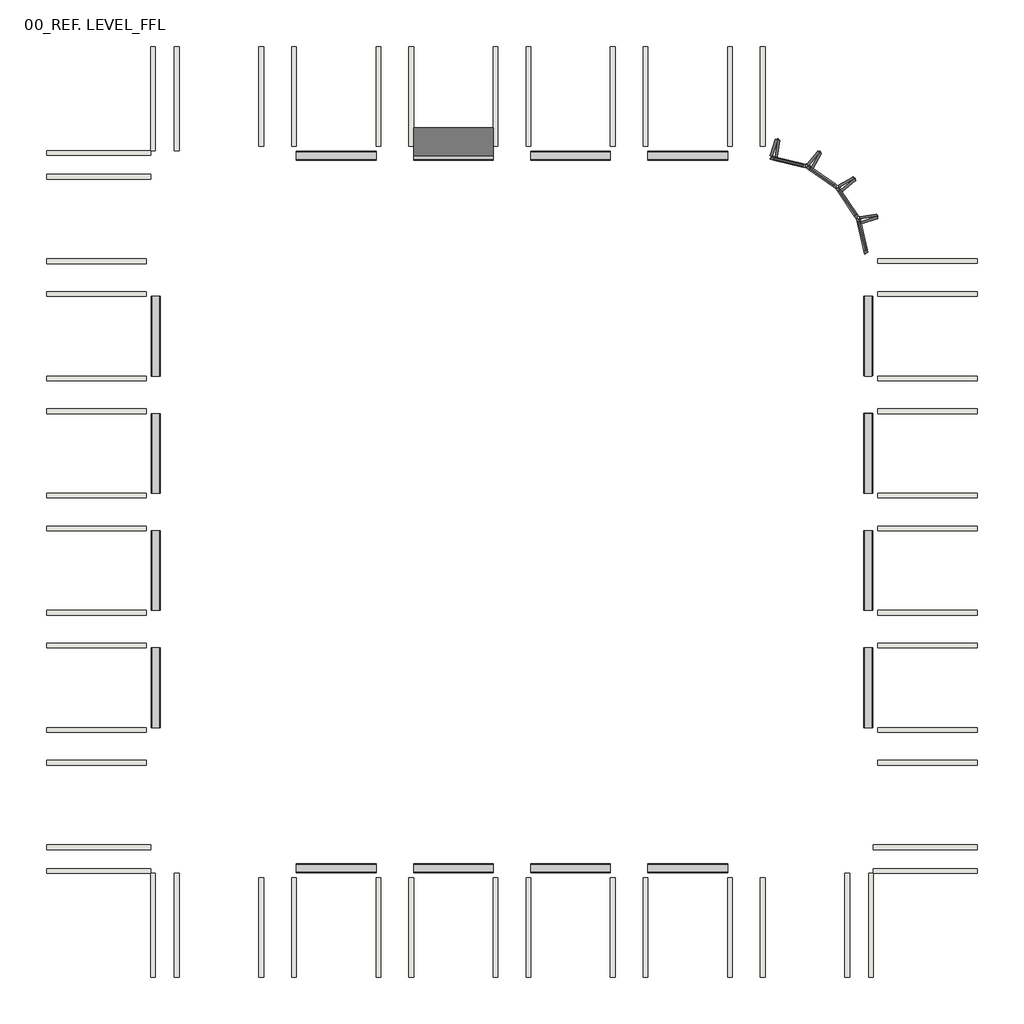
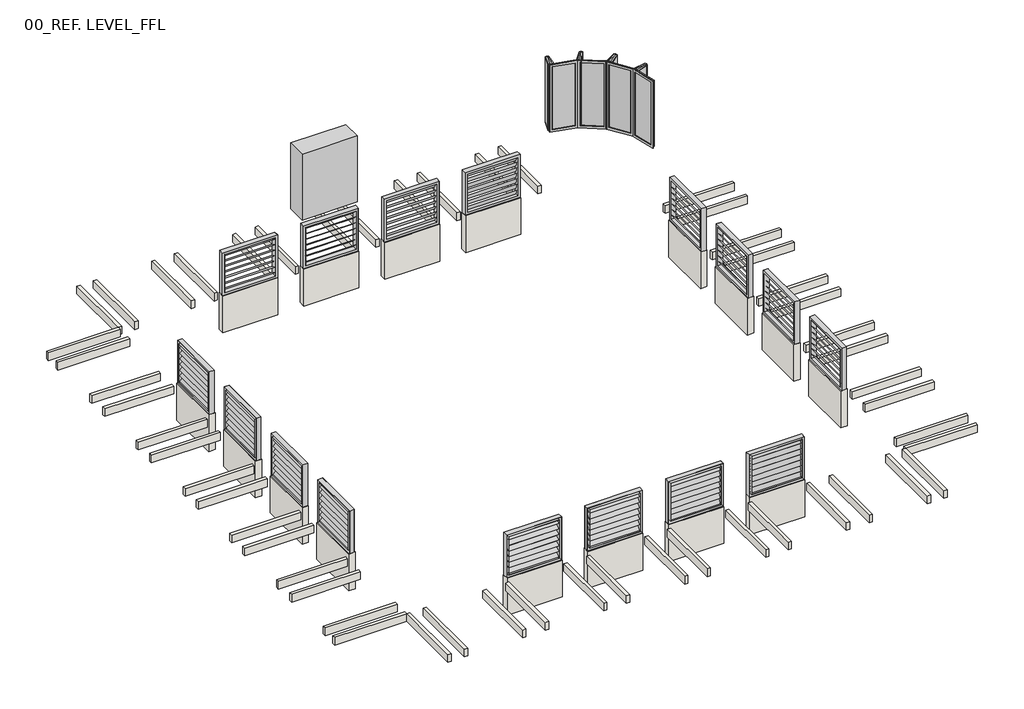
# One storey: 68 walls, 20 plates, 1 proxy.
"""IFC4 building model written with IfcOpenShell, lengths in millimetres."""

from ifc_helpers import new_model, si_unit, frame, origin, place, context, project, spatial, polyline, outline, extrude, transform, mapped, element, save
from components import louvre_assembly_louvre_assembly_33a35c59, louvre_assembly_louvre_assembly_0d6be10c, louvre_assembly_louvre_assembly_2a96ff12, louvre_assembly_louvre_assembly_c81225b3, louvre_assembly_louvre_assembly_8d303e35, louvre_assembly_louvre_assembly_0edd0d44, louvre_assembly_louvre_assembly_c5f2a191, louvre_assembly_louvre_assembly_078862d1, vert_blinds_d016024f, vert_blinds_629a2b83, vert_blinds_3b0b8ee7, vert_blinds_9a5ecf0d

model = new_model("IFC4")

# Units and contexts
model_context = context("Model", 3, world=origin())
ifc_project = project(units=[si_unit("LENGTHUNIT", "METRE", prefix="MILLI")], contexts=[model_context])

# Site, building, storey
site = spatial("IfcSite", under=ifc_project)
building = spatial("IfcBuilding", under=site)
storey = spatial("IfcBuildingStorey", under=building, Name="00_REF. LEVEL_FFL", Elevation=5000.0)

# Proxy
placement = place(None, origin())
element("IfcBuildingElementProxy", 1, Name="Mass 4 : Mass 4", ObjectType="Mass 4 : Mass 4", at=placement, inside=storey, context=model_context, shape_type="SweptSolid", body=[
    extrude(outline(polyline([(-3823.5775323, -1104.430099), (-5523.5775323, -1104.430099), (-5523.5775323, -504.430099), (-3823.5775323, -504.430099), (-3823.5775323, -1104.430099)])), frame((0.0, 0.0, 5855.5555556), z_axis=(0.0, 0.0, 1.0), x_axis=(1.0, 0.0, 0.0)), (0.0, 0.0, 1.0), 2155.5555556),
])

# Plates
louvre_assembly_louvre_assembly_shape = louvre_assembly_louvre_assembly_33a35c59(model_context)
element("IfcPlate", 2, ObjectType="LOUVRE_ASSEMBLY : LOUVRE_ASSEMBLY", at=placement, inside=storey, context=model_context, shape_type="MappedRepresentation", body=[
    mapped(louvre_assembly_louvre_assembly_shape, transform((-7173.5775323, -1104.430099, 4305.0), x_axis=(1.0, 0.0, 0.0), y_axis=(0.0, 1.0, 0.0), z_axis=(0.0, 0.0, 1.0))),
])
louvre_assembly_louvre_assembly_2_shape = louvre_assembly_louvre_assembly_0d6be10c(model_context)
element("IfcPlate", 3, ObjectType="LOUVRE_ASSEMBLY : LOUVRE_ASSEMBLY", at=placement, inside=storey, context=model_context, shape_type="MappedRepresentation", body=[
    mapped(louvre_assembly_louvre_assembly_2_shape, transform((-4673.5775323, -1104.430099, 4305.0), x_axis=(1.0, 0.0, 0.0), y_axis=(0.0, 1.0, 0.0), z_axis=(0.0, 0.0, 1.0))),
])
element("IfcPlate", 4, ObjectType="LOUVRE_ASSEMBLY : LOUVRE_ASSEMBLY", at=placement, inside=storey, context=model_context, shape_type="MappedRepresentation", body=[
    mapped(louvre_assembly_louvre_assembly_2_shape, transform((4176.4224677, -4954.430099, 4305.0), x_axis=(0.0, -1.0, 0.0), y_axis=(1.0, 0.0, 0.0), z_axis=(0.0, 0.0, 1.0))),
])
element("IfcPlate", 5, ObjectType="LOUVRE_ASSEMBLY : LOUVRE_ASSEMBLY", at=placement, inside=storey, context=model_context, shape_type="MappedRepresentation", body=[
    mapped(louvre_assembly_louvre_assembly_2_shape, transform((4176.4224677, -7454.430099, 4305.0), x_axis=(0.0, -1.0, 0.0), y_axis=(1.0, 0.0, 0.0), z_axis=(0.0, 0.0, 1.0))),
])
element("IfcPlate", 6, ObjectType="LOUVRE_ASSEMBLY : LOUVRE_ASSEMBLY", at=placement, inside=storey, context=model_context, shape_type="MappedRepresentation", body=[
    mapped(louvre_assembly_louvre_assembly_2_shape, transform((4176.4224677, -9954.430099, 4305.0), x_axis=(0.0, -1.0, 0.0), y_axis=(1.0, 0.0, 0.0), z_axis=(0.0, 0.0, 1.0))),
])
element("IfcPlate", 7, ObjectType="LOUVRE_ASSEMBLY : LOUVRE_ASSEMBLY", at=placement, inside=storey, context=model_context, shape_type="MappedRepresentation", body=[
    mapped(louvre_assembly_louvre_assembly_2_shape, transform((4176.4224677, -12454.430099, 4305.0), x_axis=(0.0, -1.0, 0.0), y_axis=(1.0, 0.0, 0.0), z_axis=(0.0, 0.0, 1.0))),
])
louvre_assembly_louvre_assembly_3_shape = louvre_assembly_louvre_assembly_2a96ff12(model_context)
element("IfcPlate", 8, ObjectType="LOUVRE_ASSEMBLY : LOUVRE_ASSEMBLY", at=placement, inside=storey, context=model_context, shape_type="MappedRepresentation", body=[
    mapped(louvre_assembly_louvre_assembly_3_shape, transform((-2173.5775323, -1104.430099, 4305.0), x_axis=(1.0, 0.0, 0.0), y_axis=(0.0, 1.0, 0.0), z_axis=(0.0, 0.0, 1.0))),
])
louvre_assembly_louvre_assembly_4_shape = louvre_assembly_louvre_assembly_c81225b3(model_context)
element("IfcPlate", 9, ObjectType="LOUVRE_ASSEMBLY : LOUVRE_ASSEMBLY", at=placement, inside=storey, context=model_context, shape_type="MappedRepresentation", body=[
    mapped(louvre_assembly_louvre_assembly_4_shape, transform((-11023.5775323, -4954.430099, 4305.0), x_axis=(0.0, -1.0, 0.0), y_axis=(1.0, 0.0, 0.0), z_axis=(0.0, 0.0, 1.0))),
])
element("IfcPlate", 10, ObjectType="LOUVRE_ASSEMBLY : LOUVRE_ASSEMBLY", at=placement, inside=storey, context=model_context, shape_type="MappedRepresentation", body=[
    mapped(louvre_assembly_louvre_assembly_4_shape, transform((-11023.5775323, -7454.430099, 4305.0), x_axis=(0.0, -1.0, 0.0), y_axis=(1.0, 0.0, 0.0), z_axis=(0.0, 0.0, 1.0))),
])
element("IfcPlate", 11, ObjectType="LOUVRE_ASSEMBLY : LOUVRE_ASSEMBLY", at=placement, inside=storey, context=model_context, shape_type="MappedRepresentation", body=[
    mapped(louvre_assembly_louvre_assembly_4_shape, transform((-11023.5775323, -9954.430099, 4305.0), x_axis=(0.0, -1.0, 0.0), y_axis=(1.0, 0.0, 0.0), z_axis=(0.0, 0.0, 1.0))),
])
element("IfcPlate", 12, ObjectType="LOUVRE_ASSEMBLY : LOUVRE_ASSEMBLY", at=placement, inside=storey, context=model_context, shape_type="MappedRepresentation", body=[
    mapped(louvre_assembly_louvre_assembly_4_shape, transform((-11023.5775323, -12454.430099, 4305.0), x_axis=(0.0, -1.0, 0.0), y_axis=(1.0, 0.0, 0.0), z_axis=(0.0, 0.0, 1.0))),
])
element("IfcPlate", 13, ObjectType="LOUVRE_ASSEMBLY : LOUVRE_ASSEMBLY", at=placement, inside=storey, context=model_context, shape_type="MappedRepresentation", body=[
    mapped(louvre_assembly_louvre_assembly_4_shape, transform((-4673.5775323, -16304.430099, 4305.0), x_axis=(1.0, 0.0, 0.0), y_axis=(0.0, 1.0, 0.0), z_axis=(0.0, 0.0, 1.0))),
])
louvre_assembly_louvre_assembly_5_shape = louvre_assembly_louvre_assembly_8d303e35(model_context)
element("IfcPlate", 14, ObjectType="LOUVRE_ASSEMBLY : LOUVRE_ASSEMBLY", at=placement, inside=storey, context=model_context, shape_type="MappedRepresentation", body=[
    mapped(louvre_assembly_louvre_assembly_5_shape, transform((326.4224677, -1104.430099, 4305.0), x_axis=(1.0, 0.0, 0.0), y_axis=(0.0, 1.0, 0.0), z_axis=(0.0, 0.0, 1.0))),
])
louvre_assembly_louvre_assembly_6_shape = louvre_assembly_louvre_assembly_0edd0d44(model_context)
element("IfcPlate", 15, ObjectType="LOUVRE_ASSEMBLY : LOUVRE_ASSEMBLY", at=placement, inside=storey, context=model_context, shape_type="MappedRepresentation", body=[
    mapped(louvre_assembly_louvre_assembly_6_shape, transform((-7173.5775323, -16304.430099, 4305.0), x_axis=(1.0, 0.0, 0.0), y_axis=(0.0, 1.0, 0.0), z_axis=(0.0, 0.0, 1.0))),
])
louvre_assembly_louvre_assembly_7_shape = louvre_assembly_louvre_assembly_c5f2a191(model_context)
element("IfcPlate", 16, ObjectType="LOUVRE_ASSEMBLY : LOUVRE_ASSEMBLY", at=placement, inside=storey, context=model_context, shape_type="MappedRepresentation", body=[
    mapped(louvre_assembly_louvre_assembly_7_shape, transform((-2173.5775323, -16304.430099, 4305.0), x_axis=(1.0, 0.0, 0.0), y_axis=(0.0, 1.0, 0.0), z_axis=(0.0, 0.0, 1.0))),
])
louvre_assembly_louvre_assembly_8_shape = louvre_assembly_louvre_assembly_078862d1(model_context)
element("IfcPlate", 17, ObjectType="LOUVRE_ASSEMBLY : LOUVRE_ASSEMBLY", at=placement, inside=storey, context=model_context, shape_type="MappedRepresentation", body=[
    mapped(louvre_assembly_louvre_assembly_8_shape, transform((326.4224677, -16304.430099, 4305.0), x_axis=(1.0, 0.0, 0.0), y_axis=(0.0, 1.0, 0.0), z_axis=(0.0, 0.0, 1.0))),
])
vert_blinds_shape = vert_blinds_d016024f(model_context)
element("IfcPlate", 18, ObjectType="CURTAIN PANEL VODA STYLE BIFOLDING : VERT_BLINDS", at=placement, inside=storey, context=model_context, shape_type="MappedRepresentation", body=[
    mapped(vert_blinds_shape, transform((2471.578616, -1249.5796599, 6100.0), x_axis=(0.9721730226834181, -0.2342639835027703, 0.0), y_axis=(0.2342639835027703, 0.9721730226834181, 0.0), z_axis=(0.0, 0.0, 1.0))),
])
vert_blinds_2_shape = vert_blinds_629a2b83(model_context)
element("IfcPlate", 19, ObjectType="CURTAIN PANEL VODA STYLE BIFOLDING : VERT_BLINDS", at=placement, inside=storey, context=model_context, shape_type="MappedRepresentation", body=[
    mapped(vert_blinds_2_shape, transform((3177.0285393, -1564.5411613, 6100.0), x_axis=(0.8230618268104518, -0.5679517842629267, 0.0), y_axis=(0.5679517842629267, 0.8230618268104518, 0.0), z_axis=(0.0, 0.0, 1.0))),
])
vert_blinds_3_shape = vert_blinds_3b0b8ee7(model_context)
element("IfcPlate", 20, ObjectType="CURTAIN PANEL VODA STYLE BIFOLDING : VERT_BLINDS", at=placement, inside=storey, context=model_context, shape_type="MappedRepresentation", body=[
    mapped(vert_blinds_3_shape, transform((3722.3912272, -2113.5896916, 6100.0), x_axis=(0.5634683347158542, -0.8261376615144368, 0.0), y_axis=(0.8261376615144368, 0.5634683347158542, 0.0), z_axis=(0.0, 0.0, 1.0))),
])
vert_blinds_4_shape = vert_blinds_9a5ecf0d(model_context)
element("IfcPlate", 21, ObjectType="CURTAIN PANEL VODA STYLE BIFOLDING : VERT_BLINDS", at=placement, inside=storey, context=model_context, shape_type="MappedRepresentation", body=[
    mapped(vert_blinds_4_shape, transform((4034.3748546, -2819.1956788, 6100.0), x_axis=(0.229492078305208, -0.9733105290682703, 0.0), y_axis=(0.9733105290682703, 0.229492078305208, 0.0), z_axis=(0.0, 0.0, 1.0))),
])

# Walls
element("IfcWall", 22, ObjectType="Generic - 100mm", at=placement, inside=storey, context=model_context, shape_type="SweptSolid", body=[
    extrude(outline(polyline([(-6223.5775323, 1224.3248489), (-6223.5775323, -904.430099), (-6323.5775323, -904.430099), (-6323.5775323, 1224.3248489), (-6223.5775323, 1224.3248489)])), frame((0.0, 0.0, 4000.0), z_axis=(0.0, 0.0, 1.0), x_axis=(1.0, 0.0, 0.0)), (0.0, 0.0, 1.0), 250.0),
])
element("IfcWall", 23, ObjectType="Generic - 100mm", at=placement, inside=storey, context=model_context, shape_type="SweptSolid", body=[
    extrude(outline(polyline([(-5523.5775323, 1224.3248489), (-5523.5775323, -904.430099), (-5623.5775323, -904.430099), (-5623.5775323, 1224.3248489), (-5523.5775323, 1224.3248489)])), frame((0.0, 0.0, 4000.0), z_axis=(0.0, 0.0, 1.0), x_axis=(1.0, 0.0, 0.0)), (0.0, 0.0, 1.0), 250.0),
])
element("IfcWall", 24, ObjectType="Generic - 100mm", at=placement, inside=storey, context=model_context, shape_type="SweptSolid", body=[
    extrude(outline(polyline([(-3723.5775323, 1224.3248489), (-3723.5775323, -904.430099), (-3823.5775323, -904.430099), (-3823.5775323, 1224.3248489), (-3723.5775323, 1224.3248489)])), frame((0.0, 0.0, 4000.0), z_axis=(0.0, 0.0, 1.0), x_axis=(1.0, 0.0, 0.0)), (0.0, 0.0, 1.0), 250.0),
])
element("IfcWall", 25, ObjectType="Generic - 100mm", at=placement, inside=storey, context=model_context, shape_type="SweptSolid", body=[
    extrude(outline(polyline([(-3023.5775323, 1224.3248489), (-3023.5775323, -904.430099), (-3123.5775323, -904.430099), (-3123.5775323, 1224.3248489), (-3023.5775323, 1224.3248489)])), frame((0.0, 0.0, 4000.0), z_axis=(0.0, 0.0, 1.0), x_axis=(1.0, 0.0, 0.0)), (0.0, 0.0, 1.0), 250.0),
])
element("IfcWall", 26, ObjectType="Generic - 100mm", at=placement, inside=storey, context=model_context, shape_type="SweptSolid", body=[
    extrude(outline(polyline([(-1223.5775323, 1224.3248489), (-1223.5775323, -904.430099), (-1323.5775323, -904.430099), (-1323.5775323, 1224.3248489), (-1223.5775323, 1224.3248489)])), frame((0.0, 0.0, 4000.0), z_axis=(0.0, 0.0, 1.0), x_axis=(1.0, 0.0, 0.0)), (0.0, 0.0, 1.0), 250.0),
])
element("IfcWall", 27, ObjectType="Generic - 100mm", at=placement, inside=storey, context=model_context, shape_type="SweptSolid", body=[
    extrude(outline(polyline([(-523.5775323, 1224.3248489), (-523.5775323, -904.430099), (-623.5775323, -904.430099), (-623.5775323, 1224.3248489), (-523.5775323, 1224.3248489)])), frame((0.0, 0.0, 4000.0), z_axis=(0.0, 0.0, 1.0), x_axis=(1.0, 0.0, 0.0)), (0.0, 0.0, 1.0), 250.0),
])
element("IfcWall", 28, ObjectType="Generic - 100mm", at=placement, inside=storey, context=model_context, shape_type="SweptSolid", body=[
    extrude(outline(polyline([(1276.4224677, 1224.3248489), (1276.4224677, -904.430099), (1176.4224677, -904.430099), (1176.4224677, 1224.3248489), (1276.4224677, 1224.3248489)])), frame((0.0, 0.0, 4000.0), z_axis=(0.0, 0.0, 1.0), x_axis=(1.0, 0.0, 0.0)), (0.0, 0.0, 1.0), 250.0),
])
element("IfcWall", 29, ObjectType="Generic - 100mm", at=placement, inside=storey, context=model_context, shape_type="SweptSolid", body=[
    extrude(outline(polyline([(1976.4224677, 1224.3248489), (1976.4224677, -904.430099), (1876.4224677, -904.430099), (1876.4224677, 1224.3248489), (1976.4224677, 1224.3248489)])), frame((0.0, 0.0, 4000.0), z_axis=(0.0, 0.0, 1.0), x_axis=(1.0, 0.0, 0.0)), (0.0, 0.0, 1.0), 250.0),
])
element("IfcWall", 30, ObjectType="Generic - 100mm", at=placement, inside=storey, context=model_context, shape_type="SweptSolid", body=[
    extrude(outline(polyline([(-8023.5775323, 1224.3248489), (-8023.5775323, -904.430099), (-8123.5775323, -904.430099), (-8123.5775323, 1224.3248489), (-8023.5775323, 1224.3248489)])), frame((0.0, 0.0, 4000.0), z_axis=(0.0, 0.0, 1.0), x_axis=(1.0, 0.0, 0.0)), (0.0, 0.0, 1.0), 250.0),
])
element("IfcWall", 31, ObjectType="Generic - 100mm", at=placement, inside=storey, context=model_context, shape_type="SweptSolid", body=[
    extrude(outline(polyline([(-8723.5775323, 1224.3248489), (-8723.5775323, -904.430099), (-8823.5775323, -904.430099), (-8823.5775323, 1224.3248489), (-8723.5775323, 1224.3248489)])), frame((0.0, 0.0, 4000.0), z_axis=(0.0, 0.0, 1.0), x_axis=(1.0, 0.0, 0.0)), (0.0, 0.0, 1.0), 250.0),
])
element("IfcWall", 32, ObjectType="Generic - 100mm", at=placement, inside=storey, context=model_context, shape_type="SweptSolid", body=[
    extrude(outline(polyline([(-13350.1421366, -3304.430099), (-11223.5775323, -3304.430099), (-11223.5775323, -3404.430099), (-13350.1421366, -3404.430099), (-13350.1421366, -3304.430099)])), frame((0.0, 0.0, 4000.0), z_axis=(0.0, 0.0, 1.0), x_axis=(1.0, 0.0, 0.0)), (0.0, 0.0, 1.0), 250.0),
])
element("IfcWall", 33, ObjectType="Generic - 100mm", at=placement, inside=storey, context=model_context, shape_type="SweptSolid", body=[
    extrude(outline(polyline([(-13352.3324802, -4004.430099), (-11223.5775323, -4004.430099), (-11223.5775323, -4104.430099), (-13352.3324802, -4104.430099), (-13352.3324802, -4004.430099)])), frame((0.0, 0.0, 4000.0), z_axis=(0.0, 0.0, 1.0), x_axis=(1.0, 0.0, 0.0)), (0.0, 0.0, 1.0), 250.0),
])
element("IfcWall", 34, ObjectType="Generic - 100mm", at=placement, inside=storey, context=model_context, shape_type="SweptSolid", body=[
    extrude(outline(polyline([(-13352.3324802, -5804.430099), (-11223.5775323, -5804.430099), (-11223.5775323, -5904.430099), (-13352.3324802, -5904.430099), (-13352.3324802, -5804.430099)])), frame((0.0, 0.0, 4000.0), z_axis=(0.0, 0.0, 1.0), x_axis=(1.0, 0.0, 0.0)), (0.0, 0.0, 1.0), 250.0),
])
element("IfcWall", 35, ObjectType="Generic - 100mm", at=placement, inside=storey, context=model_context, shape_type="SweptSolid", body=[
    extrude(outline(polyline([(-13352.3324802, -6504.430099), (-11223.5775323, -6504.430099), (-11223.5775323, -6604.430099), (-13352.3324802, -6604.430099), (-13352.3324802, -6504.430099)])), frame((0.0, 0.0, 4000.0), z_axis=(0.0, 0.0, 1.0), x_axis=(1.0, 0.0, 0.0)), (0.0, 0.0, 1.0), 250.0),
])
element("IfcWall", 36, ObjectType="Generic - 100mm", at=placement, inside=storey, context=model_context, shape_type="SweptSolid", body=[
    extrude(outline(polyline([(-13352.3324802, -8304.430099), (-11223.5775323, -8304.430099), (-11223.5775323, -8404.430099), (-13352.3324802, -8404.430099), (-13352.3324802, -8304.430099)])), frame((0.0, 0.0, 4000.0), z_axis=(0.0, 0.0, 1.0), x_axis=(1.0, 0.0, 0.0)), (0.0, 0.0, 1.0), 250.0),
])
element("IfcWall", 37, ObjectType="Generic - 100mm", at=placement, inside=storey, context=model_context, shape_type="SweptSolid", body=[
    extrude(outline(polyline([(-11033.5775323, 1224.3248489), (-11033.5775323, -994.430099), (-11133.5775323, -994.430099), (-11133.5775323, 1224.3248489), (-11033.5775323, 1224.3248489)])), frame((0.0, 0.0, 4000.0), z_axis=(0.0, 0.0, 1.0), x_axis=(1.0, 0.0, 0.0)), (0.0, 0.0, 1.0), 250.0),
])
element("IfcWall", 38, ObjectType="Generic - 100mm", at=placement, inside=storey, context=model_context, shape_type="SweptSolid", body=[
    extrude(outline(polyline([(-13352.3324802, -994.430099), (-11133.5775323, -994.430099), (-11133.5775323, -1094.430099), (-13352.3324802, -1094.430099), (-13352.3324802, -994.430099)])), frame((0.0, 0.0, 4000.0), z_axis=(0.0, 0.0, 1.0), x_axis=(1.0, 0.0, 0.0)), (0.0, 0.0, 1.0), 250.0),
])
element("IfcWall", 39, ObjectType="Generic - 100mm", at=placement, inside=storey, context=model_context, shape_type="SweptSolid", body=[
    extrude(outline(polyline([(-10523.5775323, 1224.3248489), (-10523.5775323, -994.430099), (-10623.5775323, -994.430099), (-10623.5775323, 1224.3248489), (-10523.5775323, 1224.3248489)])), frame((0.0, 0.0, 4000.0), z_axis=(0.0, 0.0, 1.0), x_axis=(1.0, 0.0, 0.0)), (0.0, 0.0, 1.0), 250.0),
])
element("IfcWall", 40, ObjectType="Generic - 100mm", at=placement, inside=storey, context=model_context, shape_type="SweptSolid", body=[
    extrude(outline(polyline([(-13350.1421366, -1502.2397554), (-11133.5775323, -1502.2397554), (-11133.5775323, -1602.2397554), (-13350.1421366, -1602.2397554), (-13350.1421366, -1502.2397554)])), frame((0.0, 0.0, 4000.0), z_axis=(0.0, 0.0, 1.0), x_axis=(1.0, 0.0, 0.0)), (0.0, 0.0, 1.0), 250.0),
])
element("IfcWall", 41, ObjectType="Generic - 100mm", at=placement, inside=storey, context=model_context, shape_type="SweptSolid", body=[
    extrude(outline(polyline([(-13352.3324802, -9004.430099), (-11223.5775323, -9004.430099), (-11223.5775323, -9104.430099), (-13352.3324802, -9104.430099), (-13352.3324802, -9004.430099)])), frame((0.0, 0.0, 4000.0), z_axis=(0.0, 0.0, 1.0), x_axis=(1.0, 0.0, 0.0)), (0.0, 0.0, 1.0), 250.0),
])
element("IfcWall", 42, ObjectType="Generic - 100mm", at=placement, inside=storey, context=model_context, shape_type="SweptSolid", body=[
    extrude(outline(polyline([(-13352.3324802, -10804.430099), (-11221.3871887, -10804.430099), (-11221.3871887, -10904.430099), (-13352.3324802, -10904.430099), (-13352.3324802, -10804.430099)])), frame((0.0, 0.0, 4000.0), z_axis=(0.0, 0.0, 1.0), x_axis=(1.0, 0.0, 0.0)), (0.0, 0.0, 1.0), 250.0),
])
element("IfcWall", 43, ObjectType="Generic - 100mm", at=placement, inside=storey, context=model_context, shape_type="SweptSolid", body=[
    extrude(outline(polyline([(6502.987072, -3402.2397554), (4374.232124, -3402.2397554), (4374.232124, -3302.2397554), (6502.987072, -3302.2397554), (6502.987072, -3402.2397554)])), frame((0.0, 0.0, 4000.0), z_axis=(0.0, 0.0, 1.0), x_axis=(1.0, 0.0, 0.0)), (0.0, 0.0, 1.0), 250.0),
])
element("IfcWall", 44, ObjectType="Generic - 100mm", at=placement, inside=storey, context=model_context, shape_type="SweptSolid", body=[
    extrude(outline(polyline([(6505.1774156, -4104.430099), (4374.232124, -4104.430099), (4374.232124, -4004.430099), (6505.1774156, -4004.430099), (6505.1774156, -4104.430099)])), frame((0.0, 0.0, 4000.0), z_axis=(0.0, 0.0, 1.0), x_axis=(1.0, 0.0, 0.0)), (0.0, 0.0, 1.0), 250.0),
])
element("IfcWall", 45, ObjectType="Generic - 100mm", at=placement, inside=storey, context=model_context, shape_type="SweptSolid", body=[
    extrude(outline(polyline([(6505.1774156, -5904.430099), (4374.232124, -5904.430099), (4374.232124, -5804.430099), (6505.1774156, -5804.430099), (6505.1774156, -5904.430099)])), frame((0.0, 0.0, 4000.0), z_axis=(0.0, 0.0, 1.0), x_axis=(1.0, 0.0, 0.0)), (0.0, 0.0, 1.0), 250.0),
])
element("IfcWall", 46, ObjectType="Generic - 100mm", at=placement, inside=storey, context=model_context, shape_type="SweptSolid", body=[
    extrude(outline(polyline([(6505.1774156, -6604.430099), (4374.232124, -6604.430099), (4374.232124, -6504.430099), (6505.1774156, -6504.430099), (6505.1774156, -6604.430099)])), frame((0.0, 0.0, 4000.0), z_axis=(0.0, 0.0, 1.0), x_axis=(1.0, 0.0, 0.0)), (0.0, 0.0, 1.0), 250.0),
])
element("IfcWall", 47, ObjectType="Generic - 100mm", at=placement, inside=storey, context=model_context, shape_type="SweptSolid", body=[
    extrude(outline(polyline([(6505.1774156, -8404.430099), (4374.232124, -8404.430099), (4374.232124, -8304.430099), (6505.1774156, -8304.430099), (6505.1774156, -8404.430099)])), frame((0.0, 0.0, 4000.0), z_axis=(0.0, 0.0, 1.0), x_axis=(1.0, 0.0, 0.0)), (0.0, 0.0, 1.0), 250.0),
])
element("IfcWall", 48, ObjectType="Generic - 100mm", at=placement, inside=storey, context=model_context, shape_type="SweptSolid", body=[
    extrude(outline(polyline([(6505.1774156, -9104.430099), (4374.232124, -9104.430099), (4374.232124, -9004.430099), (6505.1774156, -9004.430099), (6505.1774156, -9104.430099)])), frame((0.0, 0.0, 4000.0), z_axis=(0.0, 0.0, 1.0), x_axis=(1.0, 0.0, 0.0)), (0.0, 0.0, 1.0), 250.0),
])
element("IfcWall", 49, ObjectType="Generic - 100mm", at=placement, inside=storey, context=model_context, shape_type="SweptSolid", body=[
    extrude(outline(polyline([(6505.1774156, -10904.430099), (4374.232124, -10904.430099), (4374.232124, -10804.430099), (6505.1774156, -10804.430099), (6505.1774156, -10904.430099)])), frame((0.0, 0.0, 4000.0), z_axis=(0.0, 0.0, 1.0), x_axis=(1.0, 0.0, 0.0)), (0.0, 0.0, 1.0), 250.0),
])
element("IfcWall", 50, ObjectType="Generic - 100mm", at=placement, inside=storey, context=model_context, shape_type="SweptSolid", body=[
    extrude(outline(polyline([(-13352.3324802, -11504.430099), (-11221.3871887, -11504.430099), (-11221.3871887, -11604.430099), (-13352.3324802, -11604.430099), (-13352.3324802, -11504.430099)])), frame((0.0, 0.0, 4000.0), z_axis=(0.0, 0.0, 1.0), x_axis=(1.0, 0.0, 0.0)), (0.0, 0.0, 1.0), 250.0),
])
element("IfcWall", 51, ObjectType="Generic - 100mm", at=placement, inside=storey, context=model_context, shape_type="SweptSolid", body=[
    extrude(outline(polyline([(-13352.3324802, -13304.430099), (-11221.3871887, -13304.430099), (-11221.3871887, -13404.430099), (-13352.3324802, -13404.430099), (-13352.3324802, -13304.430099)])), frame((0.0, 0.0, 4000.0), z_axis=(0.0, 0.0, 1.0), x_axis=(1.0, 0.0, 0.0)), (0.0, 0.0, 1.0), 250.0),
])
element("IfcWall", 52, ObjectType="Generic - 100mm", at=placement, inside=storey, context=model_context, shape_type="SweptSolid", body=[
    extrude(outline(polyline([(6505.1774156, -11604.430099), (4374.232124, -11604.430099), (4374.232124, -11504.430099), (6505.1774156, -11504.430099), (6505.1774156, -11604.430099)])), frame((0.0, 0.0, 4000.0), z_axis=(0.0, 0.0, 1.0), x_axis=(1.0, 0.0, 0.0)), (0.0, 0.0, 1.0), 250.0),
])
element("IfcWall", 53, ObjectType="Generic - 100mm", at=placement, inside=storey, context=model_context, shape_type="SweptSolid", body=[
    extrude(outline(polyline([(6505.1774156, -13406.6204427), (4376.4224677, -13406.6204427), (4376.4224677, -13306.6204427), (6505.1774156, -13306.6204427), (6505.1774156, -13406.6204427)])), frame((0.0, 0.0, 4000.0), z_axis=(0.0, 0.0, 1.0), x_axis=(1.0, 0.0, 0.0)), (0.0, 0.0, 1.0), 250.0),
])
element("IfcWall", 54, ObjectType="Generic - 100mm", at=placement, inside=storey, context=model_context, shape_type="SweptSolid", body=[
    extrude(outline(polyline([(-11133.5775323, -18633.185047), (-11133.5775323, -16414.430099), (-11033.5775323, -16414.430099), (-11033.5775323, -18633.185047), (-11133.5775323, -18633.185047)])), frame((0.0, 0.0, 4000.0), z_axis=(0.0, 0.0, 1.0), x_axis=(1.0, 0.0, 0.0)), (0.0, 0.0, 1.0), 250.0),
])
element("IfcWall", 55, ObjectType="Generic - 100mm", at=placement, inside=storey, context=model_context, shape_type="SweptSolid", body=[
    extrude(outline(polyline([(-13352.3324802, -16314.430099), (-11133.5775323, -16314.430099), (-11133.5775323, -16414.430099), (-13352.3324802, -16414.430099), (-13352.3324802, -16314.430099)])), frame((0.0, 0.0, 4000.0), z_axis=(0.0, 0.0, 1.0), x_axis=(1.0, 0.0, 0.0)), (0.0, 0.0, 1.0), 250.0),
])
element("IfcWall", 56, ObjectType="Generic - 100mm", at=placement, inside=storey, context=model_context, shape_type="SweptSolid", body=[
    extrude(outline(polyline([(-13350.1421366, -15806.6204427), (-11133.5775323, -15806.6204427), (-11133.5775323, -15906.6204427), (-13350.1421366, -15906.6204427), (-13350.1421366, -15806.6204427)])), frame((0.0, 0.0, 4000.0), z_axis=(0.0, 0.0, 1.0), x_axis=(1.0, 0.0, 0.0)), (0.0, 0.0, 1.0), 250.0),
])
element("IfcWall", 57, ObjectType="Generic - 100mm", at=placement, inside=storey, context=model_context, shape_type="SweptSolid", body=[
    extrude(outline(polyline([(-10623.5775323, -18633.185047), (-10623.5775323, -16414.430099), (-10523.5775323, -16414.430099), (-10523.5775323, -18633.185047), (-10623.5775323, -18633.185047)])), frame((0.0, 0.0, 4000.0), z_axis=(0.0, 0.0, 1.0), x_axis=(1.0, 0.0, 0.0)), (0.0, 0.0, 1.0), 250.0),
])
element("IfcWall", 58, ObjectType="Generic - 100mm", at=placement, inside=storey, context=model_context, shape_type="SweptSolid", body=[
    extrude(outline(polyline([(-13352.3324802, -14004.430099), (-11223.5775323, -14004.430099), (-11223.5775323, -14104.430099), (-13352.3324802, -14104.430099), (-13352.3324802, -14004.430099)])), frame((0.0, 0.0, 4000.0), z_axis=(0.0, 0.0, 1.0), x_axis=(1.0, 0.0, 0.0)), (0.0, 0.0, 1.0), 250.0),
])
element("IfcWall", 59, ObjectType="Generic - 100mm", at=placement, inside=storey, context=model_context, shape_type="SweptSolid", body=[
    extrude(outline(polyline([(4186.4224677, -18633.185047), (4186.4224677, -16414.430099), (4286.4224677, -16414.430099), (4286.4224677, -18633.185047), (4186.4224677, -18633.185047)])), frame((0.0, 0.0, 4000.0), z_axis=(0.0, 0.0, 1.0), x_axis=(1.0, 0.0, 0.0)), (0.0, 0.0, 1.0), 250.0),
])
element("IfcWall", 60, ObjectType="Generic - 100mm", at=placement, inside=storey, context=model_context, shape_type="SweptSolid", body=[
    extrude(outline(polyline([(6505.1774156, -16414.430099), (4286.4224677, -16414.430099), (4286.4224677, -16314.430099), (6505.1774156, -16314.430099), (6505.1774156, -16414.430099)])), frame((0.0, 0.0, 4000.0), z_axis=(0.0, 0.0, 1.0), x_axis=(1.0, 0.0, 0.0)), (0.0, 0.0, 1.0), 250.0),
])
element("IfcWall", 61, ObjectType="Generic - 100mm", at=placement, inside=storey, context=model_context, shape_type="SweptSolid", body=[
    extrude(outline(polyline([(6502.987072, -15906.6204427), (4286.4224677, -15906.6204427), (4286.4224677, -15806.6204427), (6502.987072, -15806.6204427), (6502.987072, -15906.6204427)])), frame((0.0, 0.0, 4000.0), z_axis=(0.0, 0.0, 1.0), x_axis=(1.0, 0.0, 0.0)), (0.0, 0.0, 1.0), 250.0),
])
element("IfcWall", 62, ObjectType="Generic - 100mm", at=placement, inside=storey, context=model_context, shape_type="SweptSolid", body=[
    extrude(outline(polyline([(3676.4224677, -18633.185047), (3676.4224677, -16414.430099), (3776.4224677, -16414.430099), (3776.4224677, -18633.185047), (3676.4224677, -18633.185047)])), frame((0.0, 0.0, 4000.0), z_axis=(0.0, 0.0, 1.0), x_axis=(1.0, 0.0, 0.0)), (0.0, 0.0, 1.0), 250.0),
])
element("IfcWall", 63, ObjectType="Generic - 100mm", at=placement, inside=storey, context=model_context, shape_type="SweptSolid", body=[
    extrude(outline(polyline([(-8123.5775323, -18633.185047), (-8123.5775323, -16504.430099), (-8023.5775323, -16504.430099), (-8023.5775323, -18633.185047), (-8123.5775323, -18633.185047)])), frame((0.0, 0.0, 4000.0), z_axis=(0.0, 0.0, 1.0), x_axis=(1.0, 0.0, 0.0)), (0.0, 0.0, 1.0), 250.0),
])
element("IfcWall", 64, ObjectType="Generic - 100mm", at=placement, inside=storey, context=model_context, shape_type="SweptSolid", body=[
    extrude(outline(polyline([(-8823.5775323, -18633.185047), (-8823.5775323, -16504.430099), (-8723.5775323, -16504.430099), (-8723.5775323, -18633.185047), (-8823.5775323, -18633.185047)])), frame((0.0, 0.0, 4000.0), z_axis=(0.0, 0.0, 1.0), x_axis=(1.0, 0.0, 0.0)), (0.0, 0.0, 1.0), 250.0),
])
element("IfcWall", 65, ObjectType="Generic - 100mm", at=placement, inside=storey, context=model_context, shape_type="SweptSolid", body=[
    extrude(outline(polyline([(-5623.5775323, -18633.185047), (-5623.5775323, -16504.430099), (-5523.5775323, -16504.430099), (-5523.5775323, -18633.185047), (-5623.5775323, -18633.185047)])), frame((0.0, 0.0, 4000.0), z_axis=(0.0, 0.0, 1.0), x_axis=(1.0, 0.0, 0.0)), (0.0, 0.0, 1.0), 250.0),
])
element("IfcWall", 66, ObjectType="Generic - 100mm", at=placement, inside=storey, context=model_context, shape_type="SweptSolid", body=[
    extrude(outline(polyline([(-6323.5775323, -18633.185047), (-6323.5775323, -16504.430099), (-6223.5775323, -16504.430099), (-6223.5775323, -18633.185047), (-6323.5775323, -18633.185047)])), frame((0.0, 0.0, 4000.0), z_axis=(0.0, 0.0, 1.0), x_axis=(1.0, 0.0, 0.0)), (0.0, 0.0, 1.0), 250.0),
])
element("IfcWall", 67, ObjectType="Generic - 100mm", at=placement, inside=storey, context=model_context, shape_type="SweptSolid", body=[
    extrude(outline(polyline([(-3123.5775323, -18633.185047), (-3123.5775323, -16504.430099), (-3023.5775323, -16504.430099), (-3023.5775323, -18633.185047), (-3123.5775323, -18633.185047)])), frame((0.0, 0.0, 4000.0), z_axis=(0.0, 0.0, 1.0), x_axis=(1.0, 0.0, 0.0)), (0.0, 0.0, 1.0), 250.0),
])
element("IfcWall", 68, ObjectType="Generic - 100mm", at=placement, inside=storey, context=model_context, shape_type="SweptSolid", body=[
    extrude(outline(polyline([(-3823.5775323, -18633.185047), (-3823.5775323, -16504.430099), (-3723.5775323, -16504.430099), (-3723.5775323, -18633.185047), (-3823.5775323, -18633.185047)])), frame((0.0, 0.0, 4000.0), z_axis=(0.0, 0.0, 1.0), x_axis=(1.0, 0.0, 0.0)), (0.0, 0.0, 1.0), 250.0),
])
element("IfcWall", 69, ObjectType="Generic - 100mm", at=placement, inside=storey, context=model_context, shape_type="SweptSolid", body=[
    extrude(outline(polyline([(-623.5775323, -18633.185047), (-623.5775323, -16504.430099), (-523.5775323, -16504.430099), (-523.5775323, -18633.185047), (-623.5775323, -18633.185047)])), frame((0.0, 0.0, 4000.0), z_axis=(0.0, 0.0, 1.0), x_axis=(1.0, 0.0, 0.0)), (0.0, 0.0, 1.0), 250.0),
])
element("IfcWall", 70, ObjectType="Generic - 100mm", at=placement, inside=storey, context=model_context, shape_type="SweptSolid", body=[
    extrude(outline(polyline([(-1323.5775323, -18633.185047), (-1323.5775323, -16504.430099), (-1223.5775323, -16504.430099), (-1223.5775323, -18633.185047), (-1323.5775323, -18633.185047)])), frame((0.0, 0.0, 4000.0), z_axis=(0.0, 0.0, 1.0), x_axis=(1.0, 0.0, 0.0)), (0.0, 0.0, 1.0), 250.0),
])
element("IfcWall", 71, ObjectType="Generic - 100mm", at=placement, inside=storey, context=model_context, shape_type="SweptSolid", body=[
    extrude(outline(polyline([(1876.4224677, -18633.185047), (1876.4224677, -16504.430099), (1976.4224677, -16504.430099), (1976.4224677, -18633.185047), (1876.4224677, -18633.185047)])), frame((0.0, 0.0, 4000.0), z_axis=(0.0, 0.0, 1.0), x_axis=(1.0, 0.0, 0.0)), (0.0, 0.0, 1.0), 250.0),
])
element("IfcWall", 72, ObjectType="Generic - 100mm", at=placement, inside=storey, context=model_context, shape_type="SweptSolid", body=[
    extrude(outline(polyline([(1176.4224677, -18633.185047), (1176.4224677, -16504.430099), (1276.4224677, -16504.430099), (1276.4224677, -18633.185047), (1176.4224677, -18633.185047)])), frame((0.0, 0.0, 4000.0), z_axis=(0.0, 0.0, 1.0), x_axis=(1.0, 0.0, 0.0)), (0.0, 0.0, 1.0), 250.0),
])
element("IfcWall", 73, ObjectType="Generic - 100mm", at=placement, inside=storey, context=model_context, shape_type="SweptSolid", body=[
    extrude(outline(polyline([(6505.1774156, -14102.2397554), (4376.4224677, -14102.2397554), (4376.4224677, -14002.2397554), (6505.1774156, -14002.2397554), (6505.1774156, -14102.2397554)])), frame((0.0, 0.0, 4000.0), z_axis=(0.0, 0.0, 1.0), x_axis=(1.0, 0.0, 0.0)), (0.0, 0.0, 1.0), 250.0),
])
element("IfcWall", 74, ObjectType="Generic - 200mm", at=placement, inside=storey, context=model_context, shape_type="SweptSolid", body=[
    extrude(outline(polyline([(-6323.5775323, -1204.430099), (-8023.5775323, -1204.430099), (-8023.5775323, -1004.430099), (-6323.5775323, -1004.430099), (-6323.5775323, -1204.430099)])), frame((0.0, 0.0, 3105.0), z_axis=(0.0, 0.0, 1.0), x_axis=(1.0, 0.0, 0.0)), (0.0, 0.0, 1.0), 1200.0),
])
element("IfcWall", 75, ObjectType="Generic - 200mm", at=placement, inside=storey, context=model_context, shape_type="SweptSolid", body=[
    extrude(outline(polyline([(-3823.5775323, -1204.430099), (-5523.5775323, -1204.430099), (-5523.5775323, -1004.430099), (-3823.5775323, -1004.430099), (-3823.5775323, -1204.430099)])), frame((0.0, 0.0, 3105.0), z_axis=(0.0, 0.0, 1.0), x_axis=(1.0, 0.0, 0.0)), (0.0, 0.0, 1.0), 1200.0),
])
element("IfcWall", 76, ObjectType="Generic - 200mm", at=placement, inside=storey, context=model_context, shape_type="SweptSolid", body=[
    extrude(outline(polyline([(-1323.5775323, -1204.430099), (-3023.5775323, -1204.430099), (-3023.5775323, -1004.430099), (-1323.5775323, -1004.430099), (-1323.5775323, -1204.430099)])), frame((0.0, 0.0, 3105.0), z_axis=(0.0, 0.0, 1.0), x_axis=(1.0, 0.0, 0.0)), (0.0, 0.0, 1.0), 1200.0),
])
element("IfcWall", 77, ObjectType="Generic - 200mm", at=placement, inside=storey, context=model_context, shape_type="SweptSolid", body=[
    extrude(outline(polyline([(-523.5775323, -1004.430099), (1176.4224677, -1004.430099), (1176.4224677, -1204.430099), (-523.5775323, -1204.430099), (-523.5775323, -1004.430099)])), frame((0.0, 0.0, 3105.0), z_axis=(0.0, 0.0, 1.0), x_axis=(1.0, 0.0, 0.0)), (0.0, 0.0, 1.0), 1200.0),
])
element("IfcWall", 78, ObjectType="Generic - 200mm", at=placement, inside=storey, context=model_context, shape_type="SweptSolid", body=[
    extrude(outline(polyline([(-11123.5775323, -5804.430099), (-11123.5775323, -4104.430099), (-10923.5775323, -4104.430099), (-10923.5775323, -5804.430099), (-11123.5775323, -5804.430099)])), frame((0.0, 0.0, 3105.0), z_axis=(0.0, 0.0, 1.0), x_axis=(1.0, 0.0, 0.0)), (0.0, 0.0, 1.0), 1200.0),
])
element("IfcWall", 79, ObjectType="Generic - 200mm", at=placement, inside=storey, context=model_context, shape_type="SweptSolid", body=[
    extrude(outline(polyline([(-11123.5775323, -8304.430099), (-11123.5775323, -6604.430099), (-10923.5775323, -6604.430099), (-10923.5775323, -8304.430099), (-11123.5775323, -8304.430099)])), frame((0.0, 0.0, 3105.0), z_axis=(0.0, 0.0, 1.0), x_axis=(1.0, 0.0, 0.0)), (0.0, 0.0, 1.0), 1200.0),
])
element("IfcWall", 80, ObjectType="Generic - 200mm", at=placement, inside=storey, context=model_context, shape_type="SweptSolid", body=[
    extrude(outline(polyline([(-11123.5775323, -10804.430099), (-11123.5775323, -9104.430099), (-10923.5775323, -9104.430099), (-10923.5775323, -10804.430099), (-11123.5775323, -10804.430099)])), frame((0.0, 0.0, 3105.0), z_axis=(0.0, 0.0, 1.0), x_axis=(1.0, 0.0, 0.0)), (0.0, 0.0, 1.0), 1200.0),
])
element("IfcWall", 81, ObjectType="Generic - 200mm", at=placement, inside=storey, context=model_context, shape_type="SweptSolid", body=[
    extrude(outline(polyline([(4076.4224677, -5802.2397554), (4076.4224677, -4102.2397554), (4276.4224677, -4102.2397554), (4276.4224677, -5802.2397554), (4076.4224677, -5802.2397554)])), frame((0.0, 0.0, 3105.0), z_axis=(0.0, 0.0, 1.0), x_axis=(1.0, 0.0, 0.0)), (0.0, 0.0, 1.0), 1200.0),
])
element("IfcWall", 82, ObjectType="Generic - 200mm", at=placement, inside=storey, context=model_context, shape_type="SweptSolid", body=[
    extrude(outline(polyline([(4076.4224677, -8302.2397554), (4076.4224677, -6602.2397554), (4276.4224677, -6602.2397554), (4276.4224677, -8302.2397554), (4076.4224677, -8302.2397554)])), frame((0.0, 0.0, 3105.0), z_axis=(0.0, 0.0, 1.0), x_axis=(1.0, 0.0, 0.0)), (0.0, 0.0, 1.0), 1200.0),
])
element("IfcWall", 83, ObjectType="Generic - 200mm", at=placement, inside=storey, context=model_context, shape_type="SweptSolid", body=[
    extrude(outline(polyline([(4076.4224677, -10802.2397554), (4076.4224677, -9102.2397554), (4276.4224677, -9102.2397554), (4276.4224677, -10802.2397554), (4076.4224677, -10802.2397554)])), frame((0.0, 0.0, 3105.0), z_axis=(0.0, 0.0, 1.0), x_axis=(1.0, 0.0, 0.0)), (0.0, 0.0, 1.0), 1200.0),
])
element("IfcWall", 84, ObjectType="Generic - 200mm", at=placement, inside=storey, context=model_context, shape_type="SweptSolid", body=[
    extrude(outline(polyline([(-11123.5775323, -13304.430099), (-11123.5775323, -11604.430099), (-10923.5775323, -11604.430099), (-10923.5775323, -13304.430099), (-11123.5775323, -13304.430099)])), frame((0.0, 0.0, 3105.0), z_axis=(0.0, 0.0, 1.0), x_axis=(1.0, 0.0, 0.0)), (0.0, 0.0, 1.0), 1200.0),
])
element("IfcWall", 85, ObjectType="Generic - 200mm", at=placement, inside=storey, context=model_context, shape_type="SweptSolid", body=[
    extrude(outline(polyline([(4076.4224677, -13304.430099), (4076.4224677, -11602.2397554), (4276.4224677, -11602.2397554), (4276.4224677, -13304.430099), (4076.4224677, -13304.430099)])), frame((0.0, 0.0, 3105.0), z_axis=(0.0, 0.0, 1.0), x_axis=(1.0, 0.0, 0.0)), (0.0, 0.0, 1.0), 1200.0),
])
element("IfcWall", 86, ObjectType="Generic - 200mm", at=placement, inside=storey, context=model_context, shape_type="SweptSolid", body=[
    extrude(outline(polyline([(-6323.5775323, -16404.430099), (-8023.5775323, -16404.430099), (-8023.5775323, -16204.430099), (-6323.5775323, -16204.430099), (-6323.5775323, -16404.430099)])), frame((0.0, 0.0, 3105.0), z_axis=(0.0, 0.0, 1.0), x_axis=(1.0, 0.0, 0.0)), (0.0, 0.0, 1.0), 1200.0),
])
element("IfcWall", 87, ObjectType="Generic - 200mm", at=placement, inside=storey, context=model_context, shape_type="SweptSolid", body=[
    extrude(outline(polyline([(-3823.5775323, -16404.430099), (-5523.5775323, -16404.430099), (-5523.5775323, -16204.430099), (-3823.5775323, -16204.430099), (-3823.5775323, -16404.430099)])), frame((0.0, 0.0, 3105.0), z_axis=(0.0, 0.0, 1.0), x_axis=(1.0, 0.0, 0.0)), (0.0, 0.0, 1.0), 1200.0),
])
element("IfcWall", 88, ObjectType="Generic - 200mm", at=placement, inside=storey, context=model_context, shape_type="SweptSolid", body=[
    extrude(outline(polyline([(-1323.5775323, -16404.430099), (-3023.5775323, -16404.430099), (-3023.5775323, -16204.430099), (-1323.5775323, -16204.430099), (-1323.5775323, -16404.430099)])), frame((0.0, 0.0, 3105.0), z_axis=(0.0, 0.0, 1.0), x_axis=(1.0, 0.0, 0.0)), (0.0, 0.0, 1.0), 1200.0),
])
element("IfcWall", 89, ObjectType="Generic - 200mm", at=placement, inside=storey, context=model_context, shape_type="SweptSolid", body=[
    extrude(outline(polyline([(-523.5775323, -16204.430099), (1176.4224677, -16204.430099), (1176.4224677, -16404.430099), (-523.5775323, -16404.430099), (-523.5775323, -16204.430099)])), frame((0.0, 0.0, 3105.0), z_axis=(0.0, 0.0, 1.0), x_axis=(1.0, 0.0, 0.0)), (0.0, 0.0, 1.0), 1200.0),
])

save(model, "model.ifc")
